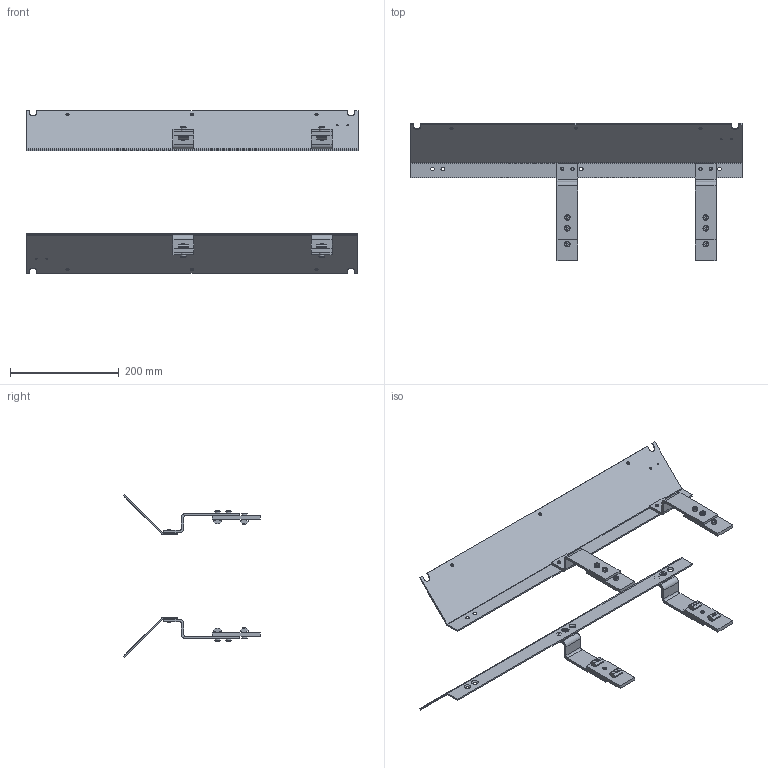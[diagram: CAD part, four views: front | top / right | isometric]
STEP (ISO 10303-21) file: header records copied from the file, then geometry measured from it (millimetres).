
FILE_DESCRIPTION((''),'2;1');
FILE_NAME('38M502_ASM','2016-02-16T',('jenni.wallner'),(''),'PRO/ENGINEER BY PARAMETRIC TECHNOLOGY CORPORATION, 2012420','PRO/ENGINEER BY PARAMETRIC TECHNOLOGY CORPORATION, 2012420','');
FILE_SCHEMA(('CONFIG_CONTROL_DESIGN'));
Length unit declared in the file: inch
Products named in the file (11): PRT0028; PRT0029; PRT0030; 950616M; PRT0031; PRT0032; PRT0033; 301285_ASM_ASM; PRT0034; 301282_ASM_ASM; 38M502_ASM
Assembly tree (16 placements, depth 4):
  38M502_ASM
    301282_ASM_ASM
      301285_ASM_ASM  x4
        PRT0028
        PRT0029
        PRT0030
        950616M
        PRT0031
        PRT0032
        PRT0033
      PRT0034  x2
Bounding box: 609.6 x 251.15 x 298.42 mm (x, y, z)
Volume: 627186.8 mm3; surface area: 430989.9 mm2
Topology: 38 solids, 62 shells, 860 faces, 2132 edges, 1392 vertices
Faces by surface type: plane 416, cylinder 324, cone 120
Entity records: 6356 total; most frequent: DIRECTION 1152, CARTESIAN_POINT 1116, ORIENTED_EDGE 940, EDGE_CURVE 482, AXIS2_PLACEMENT_3D 432, VERTEX_POINT 314, VECTOR 288, LINE 288
